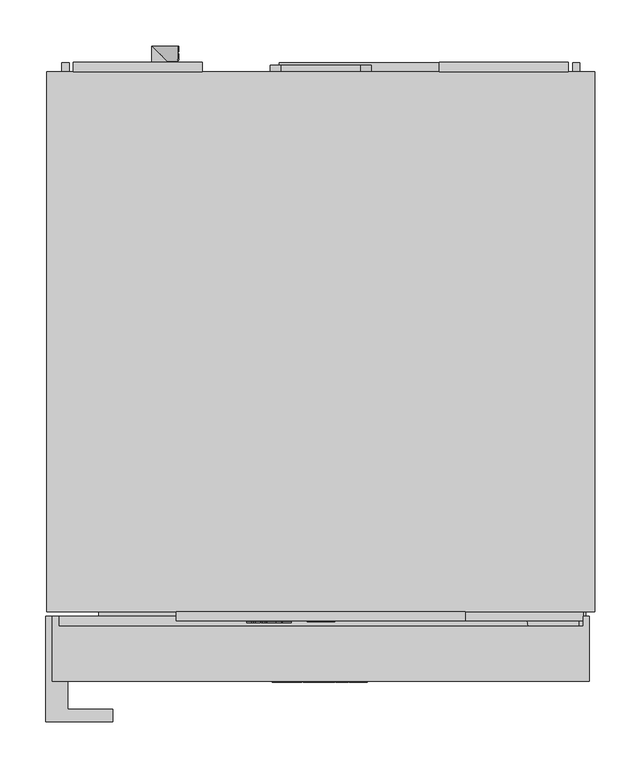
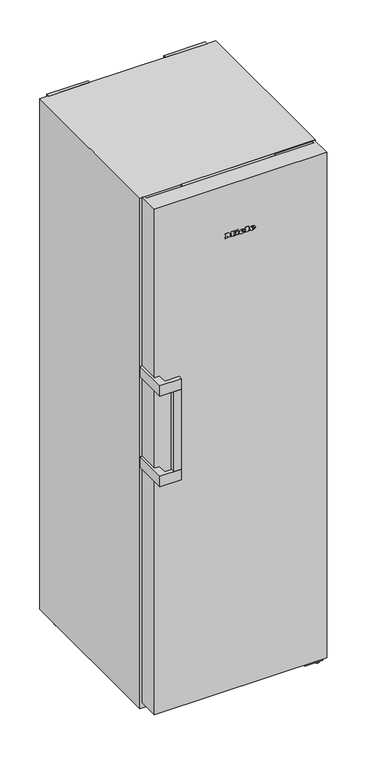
"""IFC4 building model written with IfcOpenShell, lengths in millimetres: proxy geometry, 11953140_EU1_FN4772E_WS : 37477254_EU1_11953140_FN4772E_WS."""

from ifc_helpers import new_model, si_unit, point, frame, frame_2d, origin, origin_with_axes, place, context, project, spatial, polyline, circle_curve, ellipse_curve, trimmed, segment, composite_curve, outline, extrude, faceted_brep, source, transform, mapped, element, save
from ifc_brep_helpers import plane_surface, cylinder_surface, revolved_surface, extruded_surface, advanced_brep


def specialty_equipment_b672315e(model_context):
    return source(origin(), model_context, "Body", "SolidModel", [
        extrude(outline(polyline([(15.0, -609.5), (-15.0, -609.5), (-15.0, -606.5), (15.0, -606.5), (15.0, -609.5)])), frame((0.0, 0.0, 1812.0), z_axis=(0.0, 0.0, 1.0), x_axis=(1.0, 0.0, 0.0)), (0.0, 0.0, 1.0), 28.0),
        extrude(outline(polyline([(1845.5, 105.0), (1845.5, -105.0), (1806.5, -105.0), (1806.5, 105.0), (1845.5, 105.0)]), holes=[polyline([(1840.0, -15.0), (1840.0, 15.0), (1812.0, 15.0), (1812.0, -15.0), (1840.0, -15.0)])]), frame((0.0, -608.5, 0.0), z_axis=(0.0, 1.0, 0.0), x_axis=(0.0, 0.0, 1.0)), (0.0, 0.0, 1.0), 2.0),
        faceted_brep([(157.5, -598.5, 1802.0), (157.5, -608.5, 1802.0), (-157.5, -608.5, 1802.0), (-157.5, -598.5, 1802.0), (157.5, -598.5, 1850.0), (-157.5, -598.5, 1850.0), (-157.5, -608.5, 1850.0), (157.5, -608.5, 1850.0), (-105.0, -608.5, 1845.5), (105.0, -608.5, 1845.5), (105.0, -608.5, 1806.5), (-105.0, -608.5, 1806.5), (105.0, -606.5, 1845.5), (-105.0, -606.5, 1845.5), (-105.0, -606.5, 1806.5), (105.0, -606.5, 1806.5)], [[[0, 1, 2, 3]], [[4, 5, 6, 7]], [[0, 3, 5, 4]], [[3, 2, 6, 5]], [[2, 1, 7, 6], [8, 9, 10, 11]], [[1, 0, 4, 7]], [[12, 13, 14, 15]], [[13, 12, 9, 8]], [[14, 13, 8, 11]], [[15, 14, 11, 10]], [[12, 15, 10, 9]]]),
        advanced_brep(
        [(39.0804776, -675.5, 1668.7956125), (39.0804776, -675.5, 1670.5126125), (50.4534776, -675.5, 1670.5126125), (30.6654776, -675.5, 1670.5126125), (35.3404776, -675.5, 1664.7666125), (50.1644776, -675.5, 1668.7956125), (45.0304776, -675.5, 1668.7956125), (40.9844776, -675.5, 1666.8916125), (39.0804776, -675.5, 1672.6886125), (39.0804776, -675.5, 1674.5416125), (41.9874776, -675.5, 1674.5416125), (41.9874776, -675.5, 1672.6886125), (39.0804776, -674.5, 1668.7956125), (40.9844776, -674.5, 1666.8916125), (45.0304776, -674.5, 1668.7956125), (50.1644776, -674.5, 1668.7956125), (35.3404776, -674.5, 1664.7666125), (30.6654776, -674.5, 1670.5126125), (50.4534776, -674.5, 1670.5126125), (39.0804776, -674.5, 1670.5126125), (39.0804776, -674.5, 1672.6886125), (41.9874776, -674.5, 1672.6886125), (41.9874776, -674.5, 1674.5416125), (39.0804776, -674.5, 1674.5416125)],
        [
            (0, 1),
            (1, 2),
            (2, 3, ellipse_curve(frame((40.5594776, -675.5, 1670.5126125), z_axis=(0.0, -1.0, 0.0), x_axis=(-1.0, 0.0, 0.0)), 9.894, 8.177)),
            (3, 4, circle_curve(frame((37.2445704, -675.5, 1671.0906125), z_axis=(0.0, -1.0, 0.0), x_axis=(0.0, 0.0, -1.0)), 6.6044337)),
            (4, 5, circle_curve(frame((40.361414, -675.5, 1675.5786125), z_axis=(0.0, -1.0, 0.0), x_axis=(0.0, 0.0, -1.0)), 11.9209541)),
            (5, 6),
            (6, 7, circle_curve(frame((41.8154776, -675.5, 1670.3766125), z_axis=(0.0, 1.0, 0.0), x_axis=(0.0, 0.0, -1.0)), 3.5827065)),
            (7, 0, circle_curve(frame((40.9844776, -675.5, 1668.7956125), z_axis=(0.0, 1.0, 0.0), x_axis=(0.0, 0.0, -1.0)), 1.904)),
            (8, 9),
            (9, 10, circle_curve(frame((40.5339776, -675.5, 1674.5416125), z_axis=(0.0, 1.0, 0.0), x_axis=(0.0, 0.0, -1.0)), 1.4535)),
            (10, 11),
            (11, 8),
            (12, 13, circle_curve(frame((40.9844776, -674.5, 1668.7956125), z_axis=(0.0, -1.0, 0.0), x_axis=(0.0, 0.0, -1.0)), 1.904)),
            (13, 14, circle_curve(frame((41.8154776, -674.5, 1670.3766125), z_axis=(0.0, -1.0, 0.0), x_axis=(0.0, 0.0, -1.0)), 3.5827065)),
            (14, 15),
            (15, 16, circle_curve(frame((40.361414, -674.5, 1675.5786125), z_axis=(0.0, 1.0, 0.0), x_axis=(0.0, 0.0, -1.0)), 11.9209541)),
            (16, 17, circle_curve(frame((37.2445704, -674.5, 1671.0906125), z_axis=(0.0, 1.0, 0.0), x_axis=(0.0, 0.0, -1.0)), 6.6044337)),
            (17, 18, ellipse_curve(frame((40.5594776, -674.5, 1670.5126125), z_axis=(0.0, 1.0, 0.0), x_axis=(-1.0, 0.0, 0.0)), 9.894, 8.177)),
            (18, 19),
            (19, 12),
            (20, 21),
            (21, 22),
            (22, 23, circle_curve(frame((40.5339776, -674.5, 1674.5416125), z_axis=(0.0, -1.0, 0.0), x_axis=(0.0, 0.0, -1.0)), 1.4535)),
            (23, 20),
            (0, 12),
            (19, 1),
            (18, 2),
            (5, 15),
            (14, 6),
            (17, 3),
            (13, 7),
            (16, 4),
            (8, 20),
            (23, 9),
            (22, 10),
            (21, 11),
        ],
        [
            plane_surface(frame((39.0804776, -675.5, 1670.5126125), z_axis=(0.0, -1.0, 0.0), x_axis=(0.0, 0.0, 1.0))),
            plane_surface(frame((39.0804776, -674.5, 1670.5126125), z_axis=(0.0, 1.0, 0.0), x_axis=(0.0, 0.0, -1.0))),
            plane_surface(frame((39.0804776, -675.5, 1668.7956125), z_axis=(1.0, 0.0, 0.0), x_axis=(0.0, 1.0, 0.0))),
            plane_surface(frame((39.0804776, -675.5, 1670.5126125), z_axis=(0.0, 0.0, -1.0), x_axis=(0.0, 1.0, 0.0))),
            plane_surface(frame((50.1644776, -675.5, 1668.7956125), z_axis=(0.0, 0.0, 1.0), x_axis=(0.0, 1.0, 0.0))),
            extruded_surface(trimmed(ellipse_curve(frame((40.5594776, -673.5, 1670.5126125), z_axis=(0.0, -1.0, 0.0), x_axis=(-1.0, 0.0, 0.0)), 9.894, 8.177), [point((50.4534776, -673.5, 1670.5126125))], [point((30.6654776, -673.5, 1670.5126125))], True, "CARTESIAN"), (0.0, -1.0, 0.0), 1.0),
            revolved_surface(polyline([(41.8154776, -674.5, 1666.7939059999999), (41.8154776, -675.5, 1666.7939059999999)]), (41.8154776, -674.5, 1670.3766125), (0.0, 1.0, 0.0)),
            revolved_surface(polyline([(40.9844776, -674.5, 1666.8916125), (40.9844776, -675.5, 1666.8916125)]), (40.9844776, -674.5, 1668.7956125), (0.0, 1.0, 0.0)),
            cylinder_surface(frame((37.2445704, -674.5, 1671.0906125), z_axis=(0.0, -1.0, 0.0), x_axis=(0.0, 0.0, -1.0)), 6.6044337),
            cylinder_surface(frame((40.361414, -674.5, 1675.5786125), z_axis=(0.0, -1.0, 0.0), x_axis=(0.0, 0.0, -1.0)), 11.9209541),
            plane_surface(frame((39.0804776, -675.5, 1672.6886125), z_axis=(1.0, 0.0, 0.0), x_axis=(0.0, 1.0, 0.0))),
            revolved_surface(polyline([(40.5339776, -674.5, 1673.0881124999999), (40.5339776, -675.5, 1673.0881124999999)]), (40.5339776, -674.5, 1674.5416125), (0.0, 1.0, 0.0)),
            plane_surface(frame((41.9874776, -675.5, 1674.5416125), z_axis=(-1.0, 0.0, 0.0), x_axis=(0.0, 1.0, 0.0))),
            plane_surface(frame((41.9874776, -675.5, 1672.6886125), z_axis=(0.0, 0.0, 1.0), x_axis=(0.0, 1.0, 0.0))),
        ],
        [
            (0, [[1, 2, 3, 4, 5, 6, 7, 8], [9, 10, 11, 12]]),
            (1, [[13, 14, 15, 16, 17, 18, 19, 20], [21, 22, 23, 24]]),
            (2, [[-1, 25, -20, 26]]),
            (3, [[-2, -26, -19, 27]]),
            (4, [[-6, 28, -15, 29]]),
            (5, [[-3, -27, -18, 30]]),
            (6, [[-7, -29, -14, 31]]),
            (7, [[-8, -31, -13, -25]]),
            (8, [[-4, -30, -17, 32]]),
            (9, [[-5, -32, -16, -28]]),
            (10, [[-9, 33, -24, 34]]),
            (11, [[-10, -34, -23, 35]]),
            (12, [[-11, -35, -22, 36]]),
            (13, [[-12, -36, -21, -33]]),
        ],
    ),
        advanced_brep(
        [(3.6014776, -675.5, 1668.7956125), (3.6014776, -675.5, 1670.5126125), (14.9744776, -675.5, 1670.5126125), (-4.8135224, -675.5, 1670.5126125), (-0.1385224, -675.5, 1664.7666125), (14.6854776, -675.5, 1668.7956125), (9.5514776, -675.5, 1668.7956125), (5.5054776, -675.5, 1666.8916125), (3.6014776, -675.5, 1672.6886125), (3.6014776, -675.5, 1674.5416125), (6.5084776, -675.5, 1674.5416125), (6.5084776, -675.5, 1672.6886125), (3.6014776, -674.5, 1668.7956125), (5.5054776, -674.5, 1666.8916125), (9.5514776, -674.5, 1668.7956125), (14.6854776, -674.5, 1668.7956125), (-0.1385224, -674.5, 1664.7666125), (-4.8135224, -674.5, 1670.5126125), (14.9744776, -674.5, 1670.5126125), (3.6014776, -674.5, 1670.5126125), (3.6014776, -674.5, 1672.6886125), (6.5084776, -674.5, 1672.6886125), (6.5084776, -674.5, 1674.5416125), (3.6014776, -674.5, 1674.5416125)],
        [
            (0, 1),
            (1, 2),
            (2, 3, ellipse_curve(frame((5.0804776, -675.5, 1670.5126125), z_axis=(0.0, -1.0, 0.0), x_axis=(-1.0, 0.0, 0.0)), 9.894, 8.177)),
            (3, 4, circle_curve(frame((1.7655704, -675.5, 1671.0906125), z_axis=(0.0, -1.0, 0.0), x_axis=(0.0, 0.0, -1.0)), 6.6044337)),
            (4, 5, circle_curve(frame((4.882414, -675.5, 1675.5786125), z_axis=(0.0, -1.0, 0.0), x_axis=(0.0, 0.0, -1.0)), 11.9209541)),
            (5, 6),
            (6, 7, circle_curve(frame((6.3364776, -675.5, 1670.3766125), z_axis=(0.0, 1.0, 0.0), x_axis=(0.0, 0.0, -1.0)), 3.5827065)),
            (7, 0, circle_curve(frame((5.5054776, -675.5, 1668.7956125), z_axis=(0.0, 1.0, 0.0), x_axis=(0.0, 0.0, -1.0)), 1.904)),
            (8, 9),
            (9, 10, circle_curve(frame((5.0549776, -675.5, 1674.5416125), z_axis=(0.0, 1.0, 0.0), x_axis=(0.0, 0.0, -1.0)), 1.4535)),
            (10, 11),
            (11, 8),
            (12, 13, circle_curve(frame((5.5054776, -674.5, 1668.7956125), z_axis=(0.0, -1.0, 0.0), x_axis=(0.0, 0.0, -1.0)), 1.904)),
            (13, 14, circle_curve(frame((6.3364776, -674.5, 1670.3766125), z_axis=(0.0, -1.0, 0.0), x_axis=(0.0, 0.0, -1.0)), 3.5827065)),
            (14, 15),
            (15, 16, circle_curve(frame((4.882414, -674.5, 1675.5786125), z_axis=(0.0, 1.0, 0.0), x_axis=(0.0, 0.0, -1.0)), 11.9209541)),
            (16, 17, circle_curve(frame((1.7655704, -674.5, 1671.0906125), z_axis=(0.0, 1.0, 0.0), x_axis=(0.0, 0.0, -1.0)), 6.6044337)),
            (17, 18, ellipse_curve(frame((5.0804776, -674.5, 1670.5126125), z_axis=(0.0, 1.0, 0.0), x_axis=(-1.0, 0.0, 0.0)), 9.894, 8.177)),
            (18, 19),
            (19, 12),
            (20, 21),
            (21, 22),
            (22, 23, circle_curve(frame((5.0549776, -674.5, 1674.5416125), z_axis=(0.0, -1.0, 0.0), x_axis=(0.0, 0.0, -1.0)), 1.4535)),
            (23, 20),
            (0, 12),
            (19, 1),
            (18, 2),
            (5, 15),
            (14, 6),
            (17, 3),
            (13, 7),
            (16, 4),
            (8, 20),
            (23, 9),
            (22, 10),
            (21, 11),
        ],
        [
            plane_surface(frame((3.6014776, -675.5, 1670.5126125), z_axis=(0.0, -1.0, 0.0), x_axis=(0.0, 0.0, 1.0))),
            plane_surface(frame((3.6014776, -674.5, 1670.5126125), z_axis=(0.0, 1.0, 0.0), x_axis=(0.0, 0.0, -1.0))),
            plane_surface(frame((3.6014776, -675.5, 1668.7956125), z_axis=(1.0, 0.0, 0.0), x_axis=(0.0, 1.0, 0.0))),
            plane_surface(frame((3.6014776, -675.5, 1670.5126125), z_axis=(0.0, 0.0, -1.0), x_axis=(0.0, 1.0, 0.0))),
            plane_surface(frame((14.6854776, -675.5, 1668.7956125), z_axis=(0.0, 0.0, 1.0), x_axis=(0.0, 1.0, 0.0))),
            extruded_surface(trimmed(ellipse_curve(frame((5.0804776, -673.5, 1670.5126125), z_axis=(0.0, -1.0, 0.0), x_axis=(-1.0, 0.0, 0.0)), 9.894, 8.177), [point((14.9744776, -673.5, 1670.5126125))], [point((-4.8135224, -673.5, 1670.5126125))], True, "CARTESIAN"), (0.0, -1.0, 0.0), 1.0),
            revolved_surface(polyline([(6.3364776, -674.5, 1666.7939059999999), (6.3364776, -675.5, 1666.7939059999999)]), (6.3364776, -674.5, 1670.3766125), (0.0, 1.0, 0.0)),
            revolved_surface(polyline([(5.5054776, -674.5, 1666.8916125), (5.5054776, -675.5, 1666.8916125)]), (5.5054776, -674.5, 1668.7956125), (0.0, 1.0, 0.0)),
            cylinder_surface(frame((1.7655704, -674.5, 1671.0906125), z_axis=(0.0, -1.0, 0.0), x_axis=(0.0, 0.0, -1.0)), 6.6044337),
            cylinder_surface(frame((4.882414, -674.5, 1675.5786125), z_axis=(0.0, -1.0, 0.0), x_axis=(0.0, 0.0, -1.0)), 11.9209541),
            plane_surface(frame((3.6014776, -675.5, 1672.6886125), z_axis=(1.0, 0.0, 0.0), x_axis=(0.0, 1.0, 0.0))),
            revolved_surface(polyline([(5.0549776, -674.5, 1673.0881124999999), (5.0549776, -675.5, 1673.0881124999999)]), (5.0549776, -674.5, 1674.5416125), (0.0, 1.0, 0.0)),
            plane_surface(frame((6.5084776, -675.5, 1674.5416125), z_axis=(-1.0, 0.0, 0.0), x_axis=(0.0, 1.0, 0.0))),
            plane_surface(frame((6.5084776, -675.5, 1672.6886125), z_axis=(0.0, 0.0, 1.0), x_axis=(0.0, 1.0, 0.0))),
        ],
        [
            (0, [[1, 2, 3, 4, 5, 6, 7, 8], [9, 10, 11, 12]]),
            (1, [[13, 14, 15, 16, 17, 18, 19, 20], [21, 22, 23, 24]]),
            (2, [[-1, 25, -20, 26]]),
            (3, [[-2, -26, -19, 27]]),
            (4, [[-6, 28, -15, 29]]),
            (5, [[-3, -27, -18, 30]]),
            (6, [[-7, -29, -14, 31]]),
            (7, [[-8, -31, -13, -25]]),
            (8, [[-4, -30, -17, 32]]),
            (9, [[-5, -32, -16, -28]]),
            (10, [[-9, 33, -24, 34]]),
            (11, [[-10, -34, -23, 35]]),
            (12, [[-11, -35, -22, 36]]),
            (13, [[-12, -36, -21, -33]]),
        ],
    ),
        extrude(outline(polyline([(1680.7636125, -14.9795224), (1678.0096125, -13.6875224), (1680.6956125, -7.9245224), (1683.4496125, -9.1995224), (1680.7636125, -14.9795224)])), frame((0.0, -675.5, 0.0), z_axis=(0.0, 1.0, 0.0), x_axis=(0.0, 0.0, 1.0)), (0.0, 0.0, 1.0), 1.0),
        extrude(outline(polyline([(1677.6356125, -19.1785224), (1674.5926125, -19.1785224), (1674.5926125, -17.1555224), (1667.6226125, -17.1555224), (1667.6226125, -19.1785224), (1664.7666125, -19.1785224), (1664.7666125, -5.7655224), (1667.6226125, -5.7655224), (1667.6226125, -7.7375224), (1677.6356125, -7.7375224), (1677.6356125, -19.1785224)])), frame((0.0, -675.5, 0.0), z_axis=(0.0, 1.0, 0.0), x_axis=(0.0, 0.0, 1.0)), (0.0, 0.0, 1.0), 1.0),
        extrude(outline(polyline([(1678.9956125, 15.9264776), (1678.9956125, 17.9664776), (1667.6226125, 17.9664776), (1667.6226125, 15.9264776), (1664.7666125, 15.9264776), (1664.7666125, 29.7134776), (1667.6226125, 29.7134776), (1667.6226125, 27.6224776), (1681.7666125, 27.6224776), (1681.7666125, 15.9264776), (1678.9956125, 15.9264776)])), frame((0.0, -675.5, 0.0), z_axis=(0.0, 1.0, 0.0), x_axis=(0.0, 0.0, 1.0)), (0.0, 0.0, 1.0), 1.0),
        extrude(outline(polyline([(1678.9956125, -53.0595224), (1678.9956125, -51.0025224), (1667.6226125, -51.0025224), (1667.6226125, -53.0595224), (1664.7666125, -53.0595224), (1664.7666125, -45.5795224), (1667.6226125, -45.5795224), (1667.6226125, -47.6195224), (1674.7967372, -47.6195224), (1664.7666125, -40.0205224), (1675.2068348, -32.3875224), (1667.6226125, -32.3875224), (1667.6226125, -34.4785224), (1664.7666125, -34.4785224), (1664.7666125, -20.9125224), (1667.6226125, -20.9125224), (1667.6226125, -23.0715224), (1678.9956125, -23.0715224), (1678.9956125, -20.9125224), (1681.7666125, -20.9125224), (1681.7666125, -31.2655224), (1675.3916125, -36.2295224), (1681.7666125, -41.2105224), (1681.7666125, -53.0595224), (1678.9956125, -53.0595224)])), frame((0.0, -675.5, 0.0), z_axis=(0.0, 1.0, 0.0), x_axis=(0.0, 0.0, 1.0)), (0.0, 0.0, 1.0), 1.0),
        advanced_brep(
        [(-37.64, -610.5, 1828.896), (-37.64, -610.5, 1829.704), (-32.288, -610.5, 1829.704), (-41.6, -610.5, 1829.704), (-39.4, -610.5, 1827.0), (-32.424, -610.5, 1828.896), (-34.84, -610.5, 1828.896), (-36.744, -610.5, 1828.0), (-37.64, -610.5, 1830.728), (-37.64, -610.5, 1831.6), (-36.272, -610.5, 1831.6), (-36.272, -610.5, 1830.728), (-37.64, -609.5, 1828.896), (-36.744, -609.5, 1828.0), (-34.84, -609.5, 1828.896), (-32.424, -609.5, 1828.896), (-39.4, -609.5, 1827.0), (-41.6, -609.5, 1829.704), (-32.288, -609.5, 1829.704), (-37.64, -609.5, 1829.704), (-37.64, -609.5, 1830.728), (-36.272, -609.5, 1830.728), (-36.272, -609.5, 1831.6), (-37.64, -609.5, 1831.6)],
        [
            (0, 1),
            (1, 2),
            (2, 3, ellipse_curve(frame((-36.944, -610.5, 1829.704), z_axis=(0.0, -1.0, 0.0), x_axis=(-1.0, 0.0, 0.0)), 4.656, 3.848)),
            (3, 4, circle_curve(frame((-38.5039564, -610.5, 1829.976), z_axis=(0.0, -1.0, 0.0), x_axis=(0.0, 0.0, -1.0)), 3.1079688)),
            (4, 5, circle_curve(frame((-37.0372064, -610.5, 1832.088), z_axis=(0.0, -1.0, 0.0), x_axis=(0.0, 0.0, -1.0)), 5.6098607)),
            (5, 6),
            (6, 7, circle_curve(frame((-36.3529412, -610.5, 1829.64), z_axis=(0.0, 1.0, 0.0), x_axis=(0.0, 0.0, -1.0)), 1.6859795)),
            (7, 0, circle_curve(frame((-36.744, -610.5, 1828.896), z_axis=(0.0, 1.0, 0.0), x_axis=(0.0, 0.0, -1.0)), 0.896)),
            (8, 9),
            (9, 10, circle_curve(frame((-36.956, -610.5, 1831.6), z_axis=(0.0, 1.0, 0.0), x_axis=(0.0, 0.0, -1.0)), 0.684)),
            (10, 11),
            (11, 8),
            (12, 13, circle_curve(frame((-36.744, -609.5, 1828.896), z_axis=(0.0, -1.0, 0.0), x_axis=(0.0, 0.0, -1.0)), 0.896)),
            (13, 14, circle_curve(frame((-36.3529412, -609.5, 1829.64), z_axis=(0.0, -1.0, 0.0), x_axis=(0.0, 0.0, -1.0)), 1.6859795)),
            (14, 15),
            (15, 16, circle_curve(frame((-37.0372064, -609.5, 1832.088), z_axis=(0.0, 1.0, 0.0), x_axis=(0.0, 0.0, -1.0)), 5.6098607)),
            (16, 17, circle_curve(frame((-38.5039564, -609.5, 1829.976), z_axis=(0.0, 1.0, 0.0), x_axis=(0.0, 0.0, -1.0)), 3.1079688)),
            (17, 18, ellipse_curve(frame((-36.944, -609.5, 1829.704), z_axis=(0.0, 1.0, 0.0), x_axis=(-1.0, 0.0, 0.0)), 4.656, 3.848)),
            (18, 19),
            (19, 12),
            (20, 21),
            (21, 22),
            (22, 23, circle_curve(frame((-36.956, -609.5, 1831.6), z_axis=(0.0, -1.0, 0.0), x_axis=(0.0, 0.0, -1.0)), 0.684)),
            (23, 20),
            (0, 12),
            (19, 1),
            (18, 2),
            (5, 15),
            (14, 6),
            (17, 3),
            (13, 7),
            (16, 4),
            (8, 20),
            (23, 9),
            (22, 10),
            (21, 11),
        ],
        [
            plane_surface(frame((-37.64, -610.5, 1829.704), z_axis=(0.0, -1.0, 0.0), x_axis=(0.0, 0.0, 1.0))),
            plane_surface(frame((-37.64, -609.5, 1829.704), z_axis=(0.0, 1.0, 0.0), x_axis=(0.0, 0.0, -1.0))),
            plane_surface(frame((-37.64, -610.5, 1828.896), z_axis=(1.0, 0.0, 0.0), x_axis=(0.0, 1.0, 0.0))),
            plane_surface(frame((-37.64, -610.5, 1829.704), z_axis=(0.0, 0.0, -1.0), x_axis=(0.0, 1.0, 0.0))),
            plane_surface(frame((-32.424, -610.5, 1828.896), z_axis=(0.0, 0.0, 1.0), x_axis=(0.0, 1.0, 0.0))),
            extruded_surface(trimmed(ellipse_curve(frame((-36.944, -608.5, 1829.704), z_axis=(0.0, -1.0, 0.0), x_axis=(-1.0, 0.0, 0.0)), 4.656, 3.848), [point((-32.288, -608.5, 1829.704))], [point((-41.6, -608.5, 1829.704))], True, "CARTESIAN"), (0.0, -1.0, 0.0), 1.0),
            revolved_surface(polyline([(-36.3529412, -609.5, 1827.9540205), (-36.3529412, -610.5, 1827.9540205)]), (-36.3529412, -609.5, 1829.64), (0.0, 1.0, 0.0)),
            revolved_surface(polyline([(-36.744, -609.5, 1828.0), (-36.744, -610.5, 1828.0)]), (-36.744, -609.5, 1828.896), (0.0, 1.0, 0.0)),
            cylinder_surface(frame((-38.5039564, -609.5, 1829.976), z_axis=(0.0, -1.0, 0.0), x_axis=(0.0, 0.0, -1.0)), 3.1079688),
            cylinder_surface(frame((-37.0372064, -609.5, 1832.088), z_axis=(0.0, -1.0, 0.0), x_axis=(0.0, 0.0, -1.0)), 5.6098607),
            plane_surface(frame((-37.64, -610.5, 1830.728), z_axis=(1.0, 0.0, 0.0), x_axis=(0.0, 1.0, 0.0))),
            revolved_surface(polyline([(-36.956, -609.5, 1830.916), (-36.956, -610.5, 1830.916)]), (-36.956, -609.5, 1831.6), (0.0, 1.0, 0.0)),
            plane_surface(frame((-36.272, -610.5, 1831.6), z_axis=(-1.0, 0.0, 0.0), x_axis=(0.0, 1.0, 0.0))),
            plane_surface(frame((-36.272, -610.5, 1830.728), z_axis=(0.0, 0.0, 1.0), x_axis=(0.0, 1.0, 0.0))),
        ],
        [
            (0, [[1, 2, 3, 4, 5, 6, 7, 8], [9, 10, 11, 12]]),
            (1, [[13, 14, 15, 16, 17, 18, 19, 20], [21, 22, 23, 24]]),
            (2, [[-1, 25, -20, 26]]),
            (3, [[-2, -26, -19, 27]]),
            (4, [[-6, 28, -15, 29]]),
            (5, [[-3, -27, -18, 30]]),
            (6, [[-7, -29, -14, 31]]),
            (7, [[-8, -31, -13, -25]]),
            (8, [[-4, -30, -17, 32]]),
            (9, [[-5, -32, -16, -28]]),
            (10, [[-9, 33, -24, 34]]),
            (11, [[-10, -34, -23, 35]]),
            (12, [[-11, -35, -22, 36]]),
            (13, [[-12, -36, -21, -33]]),
        ],
    ),
        advanced_brep(
        [(-54.336, -610.5, 1828.896), (-54.336, -610.5, 1829.704), (-48.984, -610.5, 1829.704), (-58.296, -610.5, 1829.704), (-56.096, -610.5, 1827.0), (-49.12, -610.5, 1828.896), (-51.536, -610.5, 1828.896), (-53.44, -610.5, 1828.0), (-54.336, -610.5, 1830.728), (-54.336, -610.5, 1831.6), (-52.968, -610.5, 1831.6), (-52.968, -610.5, 1830.728), (-54.336, -609.5, 1828.896), (-53.44, -609.5, 1828.0), (-51.536, -609.5, 1828.896), (-49.12, -609.5, 1828.896), (-56.096, -609.5, 1827.0), (-58.296, -609.5, 1829.704), (-48.984, -609.5, 1829.704), (-54.336, -609.5, 1829.704), (-54.336, -609.5, 1830.728), (-52.968, -609.5, 1830.728), (-52.968, -609.5, 1831.6), (-54.336, -609.5, 1831.6)],
        [
            (0, 1),
            (1, 2),
            (2, 3, ellipse_curve(frame((-53.64, -610.5, 1829.704), z_axis=(0.0, -1.0, 0.0), x_axis=(-1.0, 0.0, 0.0)), 4.656, 3.848)),
            (3, 4, circle_curve(frame((-55.1999564, -610.5, 1829.976), z_axis=(0.0, -1.0, 0.0), x_axis=(0.0, 0.0, -1.0)), 3.1079688)),
            (4, 5, circle_curve(frame((-53.7332064, -610.5, 1832.088), z_axis=(0.0, -1.0, 0.0), x_axis=(0.0, 0.0, -1.0)), 5.6098607)),
            (5, 6),
            (6, 7, circle_curve(frame((-53.0489412, -610.5, 1829.64), z_axis=(0.0, 1.0, 0.0), x_axis=(0.0, 0.0, -1.0)), 1.6859795)),
            (7, 0, circle_curve(frame((-53.44, -610.5, 1828.896), z_axis=(0.0, 1.0, 0.0), x_axis=(0.0, 0.0, -1.0)), 0.896)),
            (8, 9),
            (9, 10, circle_curve(frame((-53.652, -610.5, 1831.6), z_axis=(0.0, 1.0, 0.0), x_axis=(0.0, 0.0, -1.0)), 0.684)),
            (10, 11),
            (11, 8),
            (12, 13, circle_curve(frame((-53.44, -609.5, 1828.896), z_axis=(0.0, -1.0, 0.0), x_axis=(0.0, 0.0, -1.0)), 0.896)),
            (13, 14, circle_curve(frame((-53.0489412, -609.5, 1829.64), z_axis=(0.0, -1.0, 0.0), x_axis=(0.0, 0.0, -1.0)), 1.6859795)),
            (14, 15),
            (15, 16, circle_curve(frame((-53.7332064, -609.5, 1832.088), z_axis=(0.0, 1.0, 0.0), x_axis=(0.0, 0.0, -1.0)), 5.6098607)),
            (16, 17, circle_curve(frame((-55.1999564, -609.5, 1829.976), z_axis=(0.0, 1.0, 0.0), x_axis=(0.0, 0.0, -1.0)), 3.1079688)),
            (17, 18, ellipse_curve(frame((-53.64, -609.5, 1829.704), z_axis=(0.0, 1.0, 0.0), x_axis=(-1.0, 0.0, 0.0)), 4.656, 3.848)),
            (18, 19),
            (19, 12),
            (20, 21),
            (21, 22),
            (22, 23, circle_curve(frame((-53.652, -609.5, 1831.6), z_axis=(0.0, -1.0, 0.0), x_axis=(0.0, 0.0, -1.0)), 0.684)),
            (23, 20),
            (0, 12),
            (19, 1),
            (18, 2),
            (5, 15),
            (14, 6),
            (17, 3),
            (13, 7),
            (16, 4),
            (8, 20),
            (23, 9),
            (22, 10),
            (21, 11),
        ],
        [
            plane_surface(frame((-54.336, -610.5, 1829.704), z_axis=(0.0, -1.0, 0.0), x_axis=(0.0, 0.0, 1.0))),
            plane_surface(frame((-54.336, -609.5, 1829.704), z_axis=(0.0, 1.0, 0.0), x_axis=(0.0, 0.0, -1.0))),
            plane_surface(frame((-54.336, -610.5, 1828.896), z_axis=(1.0, 0.0, 0.0), x_axis=(0.0, 1.0, 0.0))),
            plane_surface(frame((-54.336, -610.5, 1829.704), z_axis=(0.0, 0.0, -1.0), x_axis=(0.0, 1.0, 0.0))),
            plane_surface(frame((-49.12, -610.5, 1828.896), z_axis=(0.0, 0.0, 1.0), x_axis=(0.0, 1.0, 0.0))),
            extruded_surface(trimmed(ellipse_curve(frame((-53.64, -608.5, 1829.704), z_axis=(0.0, -1.0, 0.0), x_axis=(-1.0, 0.0, 0.0)), 4.656, 3.848), [point((-48.984, -608.5, 1829.704))], [point((-58.296, -608.5, 1829.704))], True, "CARTESIAN"), (0.0, -1.0, 0.0), 1.0),
            revolved_surface(polyline([(-53.0489412, -609.5, 1827.9540205), (-53.0489412, -610.5, 1827.9540205)]), (-53.0489412, -609.5, 1829.64), (0.0, 1.0, 0.0)),
            revolved_surface(polyline([(-53.44, -609.5, 1828.0), (-53.44, -610.5, 1828.0)]), (-53.44, -609.5, 1828.896), (0.0, 1.0, 0.0)),
            cylinder_surface(frame((-55.1999564, -609.5, 1829.976), z_axis=(0.0, -1.0, 0.0), x_axis=(0.0, 0.0, -1.0)), 3.1079688),
            cylinder_surface(frame((-53.7332064, -609.5, 1832.088), z_axis=(0.0, -1.0, 0.0), x_axis=(0.0, 0.0, -1.0)), 5.6098607),
            plane_surface(frame((-54.336, -610.5, 1830.728), z_axis=(1.0, 0.0, 0.0), x_axis=(0.0, 1.0, 0.0))),
            revolved_surface(polyline([(-53.652, -609.5, 1830.916), (-53.652, -610.5, 1830.916)]), (-53.652, -609.5, 1831.6), (0.0, 1.0, 0.0)),
            plane_surface(frame((-52.968, -610.5, 1831.6), z_axis=(-1.0, 0.0, 0.0), x_axis=(0.0, 1.0, 0.0))),
            plane_surface(frame((-52.968, -610.5, 1830.728), z_axis=(0.0, 0.0, 1.0), x_axis=(0.0, 1.0, 0.0))),
        ],
        [
            (0, [[1, 2, 3, 4, 5, 6, 7, 8], [9, 10, 11, 12]]),
            (1, [[13, 14, 15, 16, 17, 18, 19, 20], [21, 22, 23, 24]]),
            (2, [[-1, 25, -20, 26]]),
            (3, [[-2, -26, -19, 27]]),
            (4, [[-6, 28, -15, 29]]),
            (5, [[-3, -27, -18, 30]]),
            (6, [[-7, -29, -14, 31]]),
            (7, [[-8, -31, -13, -25]]),
            (8, [[-4, -30, -17, 32]]),
            (9, [[-5, -32, -16, -28]]),
            (10, [[-9, 33, -24, 34]]),
            (11, [[-10, -34, -23, 35]]),
            (12, [[-11, -35, -22, 36]]),
            (13, [[-12, -36, -21, -33]]),
        ],
    ),
        extrude(outline(polyline([(1834.528, -63.08), (1833.232, -62.472), (1834.496, -59.76), (1835.792, -60.36), (1834.528, -63.08)])), frame((0.0, -610.5, 0.0), z_axis=(0.0, 1.0, 0.0), x_axis=(0.0, 0.0, 1.0)), (0.0, 0.0, 1.0), 1.0),
        extrude(outline(polyline([(1833.056, -65.056), (1831.624, -65.056), (1831.624, -64.104), (1828.344, -64.104), (1828.344, -65.056), (1827.0, -65.056), (1827.0, -58.744), (1828.344, -58.744), (1828.344, -59.672), (1833.056, -59.672), (1833.056, -65.056)])), frame((0.0, -610.5, 0.0), z_axis=(0.0, 1.0, 0.0), x_axis=(0.0, 0.0, 1.0)), (0.0, 0.0, 1.0), 1.0),
        extrude(outline(polyline([(1833.696, -48.536), (1833.696, -47.576), (1828.344, -47.576), (1828.344, -48.536), (1827.0, -48.536), (1827.0, -42.048), (1828.344, -42.048), (1828.344, -43.032), (1835.0, -43.032), (1835.0, -48.536), (1833.696, -48.536)])), frame((0.0, -610.5, 0.0), z_axis=(0.0, 1.0, 0.0), x_axis=(0.0, 0.0, 1.0)), (0.0, 0.0, 1.0), 1.0),
        extrude(outline(polyline([(1833.696, -81.0), (1833.696, -80.032), (1828.344, -80.032), (1828.344, -81.0), (1827.0, -81.0), (1827.0, -77.48), (1828.344, -77.48), (1828.344, -78.44), (1831.7471247, -78.44), (1827.0, -74.864), (1831.8152223, -71.272), (1828.344, -71.272), (1828.344, -72.256), (1827.0, -72.256), (1827.0, -65.872), (1828.344, -65.872), (1828.344, -66.888), (1833.696, -66.888), (1833.696, -65.872), (1835.0, -65.872), (1835.0, -70.744), (1832.0, -73.08), (1835.0, -75.424), (1835.0, -81.0), (1833.696, -81.0)])), frame((0.0, -610.5, 0.0), z_axis=(0.0, 1.0, 0.0), x_axis=(0.0, 0.0, 1.0)), (0.0, 0.0, 1.0), 1.0),
        extrude(outline(polyline([(-42.8527823, 0.0), (-48.1304417, 3.2708192), (-29.8908031, 3.2708192), (-34.9274229, 0.0), (-42.8527823, 0.0)])), frame((238.5469678, 0.0, 0.0), z_axis=(1.0, 0.0, 0.0), x_axis=(0.0, 1.0, 0.0)), (0.0, 0.0, 1.0), 15.1632647),
        extrude(outline(polyline([(-42.8527823, 0.0), (-48.1304417, 3.2708192), (-29.8908031, 3.2708192), (-34.9274229, 0.0), (-42.8527823, 0.0)])), frame((-253.7102325, 0.0, 0.0), z_axis=(1.0, 0.0, 0.0), x_axis=(0.0, 1.0, 0.0)), (0.0, 0.0, 1.0), 15.1632647),
        extrude(outline(polyline([(2.1227397, 65.0), (2.1227397, 75.045631), (9.343037, 75.045631), (9.343037, 73.7899271), (3.3784436, 73.7899271), (3.3784436, 70.8076304), (9.029111, 70.8076304), (9.029111, 69.5519266), (3.3784436, 69.5519266), (3.3784436, 66.2557039), (9.5, 66.2557039), (9.5, 65.0), (2.1227397, 65.0)])), frame((-156.0615355, 0.0, 0.0), z_axis=(1.0, 0.0, 0.0), x_axis=(0.0, 1.0, 0.0)), (0.0, 0.0, 1.0), 1.0),
        extrude(outline(polyline([(11.3835558, 65.0), (11.3835558, 75.045631), (12.6392597, 75.045631), (12.6392597, 66.2557039), (17.6620752, 66.2557039), (17.6620752, 65.0), (11.3835558, 65.0)])), frame((-156.0615355, 0.0, 0.0), z_axis=(1.0, 0.0, 0.0), x_axis=(0.0, 1.0, 0.0)), (0.0, 0.0, 1.0), 1.0),
        advanced_brep(
        [(-168.0615355, -10.5, 70.0), (-184.0615355, -10.5, 70.0), (-168.0615355, 1.5, 70.0), (-184.0615355, 17.5, 70.0), (-156.0615355, 1.5, 70.0), (-156.0615355, 17.5, 70.0)],
        [
            (0, 1, circle_curve(frame((-176.0615355, -10.5, 70.0), z_axis=(0.0, -1.0, 0.0), x_axis=(-1.0, 0.0, 0.0)), 8.0)),
            (1, 0, circle_curve(frame((-176.0615355, -10.5, 70.0), z_axis=(0.0, -1.0, 0.0), x_axis=(-1.0, 0.0, 0.0)), 8.0)),
            (0, 2),
            (2, 3, ellipse_curve(frame((-176.0615355, 9.5, 70.0), z_axis=(-0.7071067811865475, -0.7071067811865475, 0.0), x_axis=(0.7071067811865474, -0.7071067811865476, 0.0)), 11.3137085, 8.0)),
            (3, 1),
            (3, 2, ellipse_curve(frame((-176.0615355, 9.5, 70.0), z_axis=(-0.7071067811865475, -0.7071067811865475, 0.0), x_axis=(0.7071067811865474, -0.7071067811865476, 0.0)), 11.3137085, 8.0)),
            (4, 5, circle_curve(frame((-156.0615355, 9.5, 70.0), z_axis=(1.0, 0.0, 0.0), x_axis=(0.0, 1.0, 0.0)), 8.0)),
            (5, 4, circle_curve(frame((-156.0615355, 9.5, 70.0), z_axis=(1.0, 0.0, 0.0), x_axis=(0.0, 1.0, 0.0)), 8.0)),
            (2, 4),
            (5, 3),
        ],
        [
            plane_surface(frame((-176.0615355, -10.5, 0.0), z_axis=(0.0, -1.0, 0.0), x_axis=(0.0, 0.0, 1.0))),
            cylinder_surface(frame((-176.0615355, -10.5, 70.0), z_axis=(0.0, -1.0, 0.0), x_axis=(-1.0, 0.0, 0.0)), 8.0),
            plane_surface(frame((-156.0615355, 9.5, 0.0), z_axis=(1.0, 0.0, 0.0), x_axis=(0.0, 0.0, 1.0))),
            cylinder_surface(frame((-176.0615355, 9.5, 70.0), z_axis=(-1.0, 0.0, 0.0), x_axis=(0.0, 1.0, 0.0)), 8.0),
        ],
        [
            (0, [[1, 2]]),
            (1, [[-1, 3, 4, 5]]),
            (1, [[-2, -5, 6, -3]]),
            (2, [[7, 8]]),
            (3, [[-4, 9, -8, 10]]),
            (3, [[-6, -10, -7, -9]]),
        ],
    ),
        extrude(outline(polyline([(-118.9841834, 15.0), (-62.9841834, 15.0), (-75.5706779, 0.0), (-106.3976889, 0.0), (-118.9841834, 15.0)])), frame((-288.5, 0.0, 0.0), z_axis=(1.0, 0.0, 0.0), x_axis=(0.0, 1.0, 0.0)), (0.0, 0.0, 1.0), 16.0),
        extrude(outline(polyline([(-118.9841834, 15.0), (-62.9841834, 15.0), (-75.5706779, 0.0), (-106.3976889, 0.0), (-118.9841834, 15.0)])), frame((272.5, 0.0, 0.0), z_axis=(1.0, 0.0, 0.0), x_axis=(0.0, 1.0, 0.0)), (0.0, 0.0, 1.0), 16.0),
        extrude(outline(polyline([(281.8051758, -10.5), (274.2947998, -10.5), (274.2947998, -0.5), (281.8051758, -0.5), (281.8051758, -10.5)])), frame((0.0, 0.0, 239.4947815), z_axis=(0.0, 0.0, 1.0), x_axis=(1.0, 0.0, 0.0)), (0.0, 0.0, 1.0), 18.4103699),
        extrude(outline(polyline([(-274.0827332, -10.5), (-282.1051331, -10.5), (-282.1051331, -0.5), (-274.0827332, -0.5), (-274.0827332, -10.5)])), frame((0.0, 0.0, 239.4947815), z_axis=(0.0, 0.0, 1.0), x_axis=(1.0, 0.0, 0.0)), (0.0, 0.0, 1.0), 18.3224792),
        extrude(outline(polyline([(190.0, 177.5), (133.0, 177.5), (133.0, -45.5), (64.0, -45.5), (64.0, 258.5), (190.0, 258.5), (190.0, 177.5)])), frame((0.0, -10.5, 0.0), z_axis=(0.0, 1.0, 0.0), x_axis=(0.0, 0.0, 1.0)), (0.0, 0.0, 1.0), 10.0),
        extrude(outline(polyline([(269.5372046, -10.5), (129.0, -10.5), (129.0, 0.0), (269.5372046, 0.0), (269.5372046, -10.5)])), frame((0.0, 0.0, 1826.0), z_axis=(0.0, 0.0, 1.0), x_axis=(1.0, 0.0, 0.0)), (0.0, 0.0, 1.0), 24.0),
        extrude(outline(polyline([(-129.0, -10.5), (-269.5372046, -10.5), (-269.5372046, 0.0), (-129.0, 0.0), (-129.0, -10.5)])), frame((0.0, 0.0, 1826.0), z_axis=(0.0, 0.0, 1.0), x_axis=(1.0, 0.0, 0.0)), (0.0, 0.0, 1.0), 24.0),
        extrude(outline(polyline([(64.0, -159.5), (-64.0, -159.5), (-64.0, -71.5), (64.0, -71.5), (64.0, -159.5)])), frame((0.0, 0.0, 1636.0), z_axis=(0.0, 0.0, 1.0), x_axis=(1.0, 0.0, 0.0)), (0.0, 0.0, 1.0), 177.6535004),
        extrude(outline(polyline([(55.0, -521.5), (55.0, -575.5), (-55.0, -575.5), (-55.0, -521.5), (55.0, -521.5)])), frame((0.0, 0.0, 1759.0), z_axis=(0.0, 0.0, 1.0), x_axis=(1.0, 0.0, 0.0)), (0.0, 0.0, 1.0), 1.0),
        extrude(outline(composite_curve([segment(trimmed(circle_curve(frame_2d((-248.75, -584.5)), 10.0), [point((-258.75, -584.5))], [point((-238.75, -584.5))], False, "CARTESIAN"), True, "CONTINUOUS"), segment(trimmed(circle_curve(frame_2d((-248.75, -584.5)), 10.0), [point((-238.75, -584.5))], [point((-258.75, -584.5))], False, "CARTESIAN"), True, "CONTINUOUS")], self_intersect=False)), origin_with_axes(), (0.0, 0.0, 1.0), 15.0),
        extrude(outline(composite_curve([segment(trimmed(circle_curve(frame_2d((248.75, -584.4761218)), 10.0), [point((238.75, -584.4761218))], [point((258.75, -584.4761218))], False, "CARTESIAN"), True, "CONTINUOUS"), segment(trimmed(circle_curve(frame_2d((248.75, -584.4761218)), 10.0), [point((258.75, -584.4761218))], [point((238.75, -584.4761218))], False, "CARTESIAN"), True, "CONTINUOUS")], self_intersect=False)), origin_with_axes(), (0.0, 0.0, 1.0), 15.0),
        extrude(outline(polyline([(240.0, -290.5), (-240.0, -290.5), (-240.0, -71.5), (240.0, -71.5), (240.0, -290.5)])), frame((0.0, 0.0, 129.0), z_axis=(0.0, 0.0, 1.0), x_axis=(1.0, 0.0, 0.0)), (0.0, 0.0, 1.0), 190.0),
        extrude(outline(composite_curve([segment(trimmed(circle_curve(frame_2d((1162.0, -43.0)), 12.0), [point((1174.0, -43.0))], [point((1162.0, -55.0))], False, "CARTESIAN"), True, "CONTINUOUS"), segment(polyline([(1162.0, -55.0), (1138.0, -55.0)]), True, "CONTINUOUS"), segment(trimmed(circle_curve(frame_2d((1138.0, -43.0)), 12.0), [point((1138.0, -55.0))], [point((1126.0, -43.0))], False, "CARTESIAN"), True, "CONTINUOUS"), segment(polyline([(1126.0, -43.0), (1126.0, 43.0)]), True, "CONTINUOUS"), segment(trimmed(circle_curve(frame_2d((1138.0, 43.0)), 12.0), [point((1126.0, 43.0))], [point((1138.0, 55.0))], False, "CARTESIAN"), True, "CONTINUOUS"), segment(polyline([(1138.0, 55.0), (1162.0, 55.0)]), True, "CONTINUOUS"), segment(trimmed(circle_curve(frame_2d((1162.0, 43.0)), 12.0), [point((1162.0, 55.0))], [point((1174.0, 43.0))], False, "CARTESIAN"), True, "CONTINUOUS"), segment(polyline([(1174.0, 43.0), (1174.0, -43.0)]), True, "CONTINUOUS")], self_intersect=False)), frame((0.0, -10.5, 0.0), z_axis=(0.0, 1.0, 0.0), x_axis=(0.0, 0.0, 1.0)), (0.0, 0.0, 1.0), 7.0),
        extrude(outline(polyline([(272.5, -28.6436023), (272.5, -529.6387407), (-272.5, -529.6387407), (-272.5, -28.6436023), (272.5, -28.6436023)])), frame((0.0, 0.0, 3.2708192), z_axis=(0.0, 0.0, 1.0), x_axis=(1.0, 0.0, 0.0)), (0.0, 0.0, 1.0), 11.7291808),
        faceted_brep([(298.5, -10.5, 1850.0), (-298.5, -10.5, 1850.0), (-298.5, -598.5, 1850.0), (298.5, -598.5, 1850.0), (298.5, -10.5, 15.0), (298.5, -598.5, 15.0), (-298.5, -598.5, 15.0), (-298.5, -10.5, 15.0), (-240.0, -598.5, 1760.0), (240.0, -598.5, 1760.0), (240.0, -598.5, 129.0), (-240.0, -598.5, 129.0), (-240.0, -468.5, 1760.0), (240.0, -468.5, 1760.0), (240.0, -71.5, 129.0), (-240.0, -71.5, 129.0), (240.0, -71.5, 1813.6535004), (-240.0, -71.5, 1813.6535004), (-240.0, -468.5, 1813.6535004), (240.0, -468.5, 1813.6535004)], [[[0, 1, 2, 3]], [[4, 5, 6, 7]], [[1, 0, 4, 7]], [[2, 1, 7, 6]], [[3, 2, 6, 5], [8, 9, 10, 11]], [[0, 3, 5, 4]], [[9, 8, 12, 13]], [[14, 15, 11, 10]], [[15, 14, 16, 17]], [[15, 17, 18, 12, 8, 11]], [[16, 14, 10, 9, 13, 19]], [[19, 18, 17, 16]], [[18, 19, 13, 12]]]),
        extrude(outline(polyline([(-299.5, -718.5), (-299.5, -603.5), (-292.5, -603.5), (-292.5, -674.5), (-275.5, -674.5), (-275.5, -704.5), (-226.5, -704.5), (-226.5, -718.5), (-299.5, -718.5)])), frame((0.0, 0.0, 886.0), z_axis=(0.0, 0.0, 1.0), x_axis=(1.0, 0.0, 0.0)), (0.0, 0.0, 1.0), 37.0),
        extrude(outline(polyline([(-299.5, -718.5), (-299.5, -603.5), (-292.5, -603.5), (-292.5, -674.5), (-275.5, -674.5), (-275.5, -704.5), (-226.5, -704.5), (-226.5, -718.5), (-299.5, -718.5)])), frame((0.0, 0.0, 1211.0443098), z_axis=(0.0, 0.0, 1.0), x_axis=(1.0, 0.0, 0.0)), (0.0, 0.0, 1.0), 37.0),
        extrude(outline(composite_curve([segment(trimmed(circle_curve(frame_2d((276.9539666, -644.7854989)), 7.0), [point((269.9539666, -644.7854989))], [point((283.9539666, -644.7854989))], False, "CARTESIAN"), True, "CONTINUOUS"), segment(trimmed(circle_curve(frame_2d((276.9539666, -644.7854989)), 7.0), [point((283.9539666, -644.7854989))], [point((269.9539666, -644.7854989))], False, "CARTESIAN"), True, "CONTINUOUS")], self_intersect=False)), frame((0.0, 0.0, 10.0), z_axis=(0.0, 0.0, 1.0), x_axis=(1.0, 0.0, 0.0)), (0.0, 0.0, 1.0), 11.0),
        extrude(outline(polyline([(291.8779467, -660.5), (227.8680756, -660.5), (227.8680756, -603.5), (291.8779467, -603.5), (291.8779467, -660.5)])), frame((0.0, 0.0, 31.5014777), z_axis=(0.0, 0.0, 1.0), x_axis=(1.0, 0.0, 0.0)), (0.0, 0.0, 1.0), 4.4985223),
        extrude(outline(composite_curve([segment(trimmed(circle_curve(frame_2d((274.5, -642.5)), 10.0), [point((264.5, -642.5))], [point((284.5, -642.5))], False, "CARTESIAN"), True, "CONTINUOUS"), segment(trimmed(circle_curve(frame_2d((274.5, -642.5)), 10.0), [point((284.5, -642.5))], [point((264.5, -642.5))], False, "CARTESIAN"), True, "CONTINUOUS")], self_intersect=False)), frame((0.0, 0.0, 27.0014777), z_axis=(0.0, 0.0, 1.0), x_axis=(1.0, 0.0, 0.0)), (0.0, 0.0, 1.0), 4.5),
        extrude(outline(polyline([(242.0, -603.5), (-242.0, -603.5), (-242.0, -598.5), (242.0, -598.5), (242.0, -603.5)])), frame((0.0, 0.0, 128.0014777), z_axis=(0.0, 0.0, 1.0), x_axis=(1.0, 0.0, 0.0)), (0.0, 0.0, 1.0), 1639.0),
        extrude(outline(polyline([(-226.5, -718.5), (-252.5, -718.5), (-252.5, -704.5), (-226.5, -704.5), (-226.5, -718.5)])), frame((0.0, 0.0, 923.0), z_axis=(0.0, 0.0, 1.0), x_axis=(1.0, 0.0, 0.0)), (0.0, 0.0, 1.0), 288.0443098),
        extrude(outline(polyline([(233.3907627, -657.6644264), (224.7217479, -608.5), (280.684623, -608.5), (282.5, -657.6644264), (233.3907627, -657.6644264)])), frame((0.0, 0.0, 1817.6745089), z_axis=(0.0, 0.0, 1.0), x_axis=(1.0, 0.0, 0.0)), (0.0, 0.0, 1.0), 23.7898602),
        extrude(outline(polyline([(285.5, -608.5), (157.5, -608.5), (157.5, -598.5), (285.5, -598.5), (285.5, -608.5)])), frame((0.0, 0.0, 1800.5014777), z_axis=(0.0, 0.0, 1.0), x_axis=(1.0, 0.0, 0.0)), (0.0, 0.0, 1.0), 48.0),
        extrude(outline(polyline([(-598.5, 21.0), (-660.5, 21.0), (-660.5, 27.0014777), (-603.5, 27.0014777), (-603.5, 69.0014777), (-598.5, 69.0014777), (-598.5, 21.0)])), frame((226.5, 0.0, 0.0), z_axis=(1.0, 0.0, 0.0), x_axis=(0.0, 1.0, 0.0)), (0.0, 0.0, 1.0), 62.0),
        advanced_brep(
        [(292.5, -674.5, 1854.0), (-292.5, -674.5, 1854.0), (-292.5, -674.5, 36.0), (292.5, -674.5, 36.0), (292.5, -603.5, 1854.0), (292.5, -603.5, 36.0), (222.5, -603.5, 36.0), (222.5, -603.5, 66.0), (-222.5, -603.5, 66.0), (-222.5, -603.5, 36.0), (-292.5, -603.5, 36.0), (-292.5, -603.5, 1854.0), (-285.5, -603.5, 1854.0), (-285.5, -603.5, 1797.0), (285.5, -603.5, 1797.0), (285.5, -603.5, 1854.0), (285.5, -614.5, 1854.0), (-285.5, -614.5, 1854.0), (-222.5, -645.4397305, 36.0), (222.5, -645.4397305, 36.0), (222.5, -617.5, 66.0), (-222.5, -617.5, 66.0), (285.5, -614.5, 1797.0), (-285.5, -614.5, 1797.0), (285.5, -614.5, 1848.5014777), (192.5, -614.5, 1848.5014777), (192.5, -614.5, 1800.5014777), (285.5, -614.5, 1800.5014777), (192.5, -660.3426016, 1848.5014777), (285.5, -660.3426016, 1848.5014777), (285.5, -660.3426016, 1800.5014777), (192.5, -660.3426016, 1800.5014777)],
        [
            (0, 1),
            (1, 2),
            (2, 3),
            (3, 0),
            (4, 5),
            (5, 6),
            (6, 7),
            (7, 8),
            (8, 9),
            (9, 10),
            (10, 11),
            (11, 12),
            (12, 13),
            (13, 14),
            (14, 15),
            (15, 4),
            (0, 4),
            (15, 16),
            (16, 17),
            (17, 12),
            (11, 1),
            (10, 2),
            (9, 18),
            (18, 19),
            (19, 6),
            (5, 3),
            (20, 7),
            (19, 20, circle_curve(frame((222.5, -612.8834964, 33.6900621), z_axis=(-1.0, 0.0, 0.0), x_axis=(0.0, 1.0, 0.0)), 32.6380788)),
            (21, 18, circle_curve(frame((-222.5, -612.8834964, 33.6900621), z_axis=(1.0, 0.0, 0.0), x_axis=(0.0, 1.0, 0.0)), 32.6380788)),
            (8, 21),
            (21, 20),
            (22, 23),
            (23, 17),
            (16, 24),
            (24, 25),
            (25, 26),
            (26, 27),
            (27, 22),
            (22, 14),
            (13, 23),
            (28, 29),
            (29, 30),
            (30, 31),
            (31, 28),
            (31, 26),
            (25, 28),
            (30, 27),
            (29, 24),
        ],
        [
            plane_surface(frame((-292.5, -674.5, 1854.0), z_axis=(0.0, -1.0, 0.0), x_axis=(-1.0, 0.0, 0.0))),
            plane_surface(frame((-292.5, -603.5, 1854.0), z_axis=(0.0, 1.0, 0.0), x_axis=(1.0, 0.0, 0.0))),
            plane_surface(frame((292.5, -674.5, 1854.0), z_axis=(0.0, 0.0, 1.0), x_axis=(0.0, 1.0, 0.0))),
            plane_surface(frame((-292.5, -674.5, 1854.0), z_axis=(-1.0, 0.0, 0.0), x_axis=(0.0, 1.0, 0.0))),
            plane_surface(frame((-292.5, -674.5, 36.0), z_axis=(0.0, 0.0, -1.0), x_axis=(0.0, 1.0, 0.0))),
            plane_surface(frame((292.5, -674.5, 36.0), z_axis=(1.0, 0.0, 0.0), x_axis=(0.0, 1.0, 0.0))),
            plane_surface(frame((222.5, -580.2454176, 33.6900621), z_axis=(-1.0, 0.0, 0.0), x_axis=(0.0, 0.0, 1.0))),
            plane_surface(frame((-222.5, -580.2454176, 33.6900621), z_axis=(1.0, 0.0, 0.0), x_axis=(0.0, 0.0, -1.0))),
            revolved_surface(polyline([(222.5, -580.2454176, 33.6900621), (-222.5, -580.2454176, 33.6900621)]), (-222.5, -612.8834964, 33.6900621), (1.0, 0.0, 0.0)),
            plane_surface(frame((222.5, -603.5, 66.0), z_axis=(0.0, 0.0, -1.0), x_axis=(-1.0, 0.0, 0.0))),
            plane_surface(frame((285.5, -614.5, 1867.7474822), z_axis=(0.0, 1.0, 0.0), x_axis=(-1.0, 0.0, 0.0))),
            plane_surface(frame((285.5, -614.5, 1797.0), z_axis=(0.0, 0.0, 1.0), x_axis=(-1.0, 0.0, 0.0))),
            plane_surface(frame((-285.5, -603.5, 1797.0), z_axis=(1.0, 0.0, 0.0), x_axis=(0.0, 0.0, -1.0))),
            plane_surface(frame((192.5, -660.3426016, 1848.5014777), z_axis=(0.0, 1.0, 0.0), x_axis=(0.0, 0.0, -1.0))),
            plane_surface(frame((192.5, -660.3426016, 1848.5014777), z_axis=(1.0, 0.0, 0.0), x_axis=(0.0, 1.0, 0.0))),
            plane_surface(frame((192.5, -660.3426016, 1800.5014777), z_axis=(0.0, 0.0, 1.0), x_axis=(0.0, 1.0, 0.0))),
            plane_surface(frame((285.5, -660.3426016, 1800.5014777), z_axis=(-1.0, 0.0, 0.0), x_axis=(0.0, 1.0, 0.0))),
            plane_surface(frame((285.5, -660.3426016, 1848.5014777), z_axis=(0.0, 0.0, -1.0), x_axis=(0.0, 1.0, 0.0))),
        ],
        [
            (0, [[1, 2, 3, 4]]),
            (1, [[5, 6, 7, 8, 9, 10, 11, 12, 13, 14, 15, 16]]),
            (2, [[-1, 17, -16, 18, 19, 20, -12, 21]]),
            (3, [[-2, -21, -11, 22]]),
            (4, [[-3, -22, -10, 23, 24, 25, -6, 26]]),
            (5, [[-4, -26, -5, -17]]),
            (6, [[27, -7, -25, 28]]),
            (7, [[29, -23, -9, 30]]),
            (8, [[-28, -24, -29, 31]]),
            (9, [[-27, -31, -30, -8]]),
            (10, [[32, 33, -19, 34, 35, 36, 37, 38]]),
            (11, [[39, -14, 40, -32]]),
            (12, [[-40, -13, -20, -33]]),
            (13, [[41, 42, 43, 44]]),
            (14, [[-44, 45, -36, 46]]),
            (15, [[-43, 47, -37, -45]]),
            (16, [[-42, 48, -34, -18, -15, -39, -38, -47]]),
            (17, [[-41, -46, -35, -48]]),
        ],
    ),
    ])


if __name__ == "__main__":
    model = new_model("IFC4")
    model_context = context("Model", 3, world=origin())
    ifc_project = project(units=[si_unit("LENGTHUNIT", "METRE", prefix="MILLI")], contexts=[model_context])
    site = spatial("IfcSite", under=ifc_project)
    building = spatial("IfcBuilding", under=site)
    placement = place(None, origin())
    specialty_equipment_shape = specialty_equipment_b672315e(model_context)
    element("IfcBuildingElementProxy", 1, Name="11953140_EU1_FN4772E_WS : 37477254_EU1_11953140_FN4772E_WS", ObjectType="11953140_EU1_FN4772E_WS : 37477254_EU1_11953140_FN4772E_WS", at=placement, inside=building, context=model_context, shape_type="MappedRepresentation", body=[
        mapped(specialty_equipment_shape, transform((0.0, 0.0, 0.0), x_axis=(1.0, 0.0, 0.0), y_axis=(0.0, 1.0, 0.0), z_axis=(0.0, 0.0, 1.0))),
    ])
    save(model, "model.ifc")
